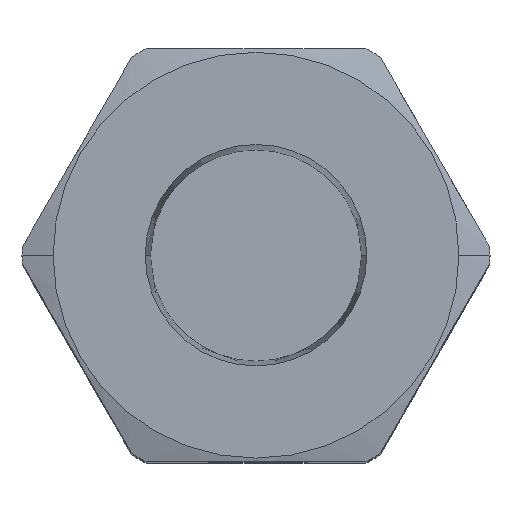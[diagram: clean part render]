
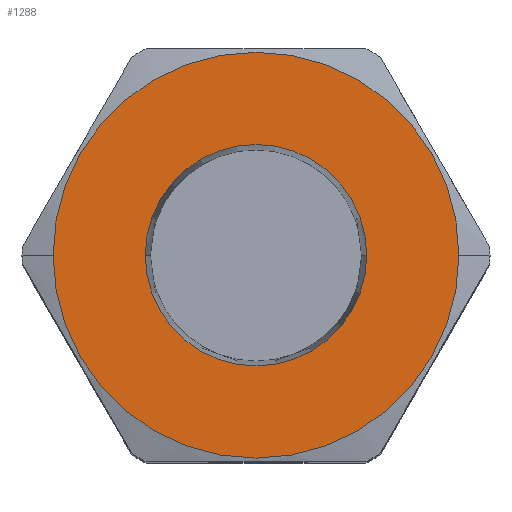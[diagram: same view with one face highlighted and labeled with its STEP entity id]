
A CAD part, top view. The second image highlights one B-rep face of the part: STEP entity #1288.
In plain terms, the highlighted planar face has unit normal (0, 0, 1).
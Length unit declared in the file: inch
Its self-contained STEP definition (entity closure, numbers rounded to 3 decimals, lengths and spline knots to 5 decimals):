
#5 = CIRCLE ( 'NONE', #6, 0.5525 ) ;
#6 = AXIS2_PLACEMENT_3D ( 'NONE', #537, #536, #535 ) ;
#152 = CARTESIAN_POINT ( 'NONE',  ( 0., 0., 2.437 ) ) ;
#153 = DIRECTION ( 'NONE',  ( 0., 0., 1. ) ) ;
#154 = DIRECTION ( 'NONE',  ( 1., 0., 0. ) ) ;
#250 = CARTESIAN_POINT ( 'NONE',  ( 0., 0., 2.437 ) ) ;
#251 = DIRECTION ( 'NONE',  ( 0., 0., 1. ) ) ;
#252 = DIRECTION ( 'NONE',  ( 1., 0., 0. ) ) ;
#319 = AXIS2_PLACEMENT_3D ( 'NONE', #981, #989, #990 ) ;
#320 = AXIS2_PLACEMENT_3D ( 'NONE', #250, #251, #252 ) ;
#351 = CIRCLE ( 'NONE', #320, 0.30151 ) ;
#357 = AXIS2_PLACEMENT_3D ( 'NONE', #152, #153, #154 ) ;
#359 = AXIS2_PLACEMENT_3D ( 'NONE', #779, #780, #781 ) ;
#360 = CIRCLE ( 'NONE', #357, 0.30151 ) ;
#361 = CIRCLE ( 'NONE', #359, 0.5525 ) ;
#412 = VERTEX_POINT ( 'NONE', #586 ) ;
#414 = VERTEX_POINT ( 'NONE', #584 ) ;
#416 = VERTEX_POINT ( 'NONE', #582 ) ;
#460 = VERTEX_POINT ( 'NONE', #540 ) ;
#509 = EDGE_LOOP ( 'NONE', ( #1412, #1411 ) ) ;
#513 = EDGE_LOOP ( 'NONE', ( #1413, #1406 ) ) ;
#535 = DIRECTION ( 'NONE',  ( -1., 0., 0. ) ) ;
#536 = DIRECTION ( 'NONE',  ( 0., 0., -1. ) ) ;
#537 = CARTESIAN_POINT ( 'NONE',  ( 0., 0., 2.437 ) ) ;
#540 = CARTESIAN_POINT ( 'NONE',  ( -0.30151, 0., 2.437 ) ) ;
#582 = CARTESIAN_POINT ( 'NONE',  ( -0.5525, 0., 2.437 ) ) ;
#584 = CARTESIAN_POINT ( 'NONE',  ( 0.30151, 0., 2.437 ) ) ;
#586 = CARTESIAN_POINT ( 'NONE',  ( 0.5525, 0., 2.437 ) ) ;
#779 = CARTESIAN_POINT ( 'NONE',  ( 0., 0., 2.437 ) ) ;
#780 = DIRECTION ( 'NONE',  ( 0., 0., -1. ) ) ;
#781 = DIRECTION ( 'NONE',  ( -1., 0., 0. ) ) ;
#827 = EDGE_CURVE ( 'NONE', #416, #412, #5, .T. ) ;
#981 = CARTESIAN_POINT ( 'NONE',  ( 0.64952, 0., 2.437 ) ) ;
#985 = FACE_BOUND ( 'NONE', #509, .T. ) ;
#986 = FACE_OUTER_BOUND ( 'NONE', #513, .T. ) ;
#987 = PLANE ( 'NONE',  #319 ) ;
#989 = DIRECTION ( 'NONE',  ( 0., 0., 1. ) ) ;
#990 = DIRECTION ( 'NONE',  ( 1., 0., 0. ) ) ;
#1235 = EDGE_CURVE ( 'NONE', #412, #416, #361, .T. ) ;
#1242 = EDGE_CURVE ( 'NONE', #414, #460, #360, .T. ) ;
#1266 = EDGE_CURVE ( 'NONE', #460, #414, #351, .T. ) ;
#1288 = ADVANCED_FACE ( 'NONE', ( #985, #986 ), #987, .T. ) ;
#1406 = ORIENTED_EDGE ( 'NONE', *, *, #1235, .F. ) ;
#1411 = ORIENTED_EDGE ( 'NONE', *, *, #1266, .F. ) ;
#1412 = ORIENTED_EDGE ( 'NONE', *, *, #1242, .F. ) ;
#1413 = ORIENTED_EDGE ( 'NONE', *, *, #827, .F. ) ;
